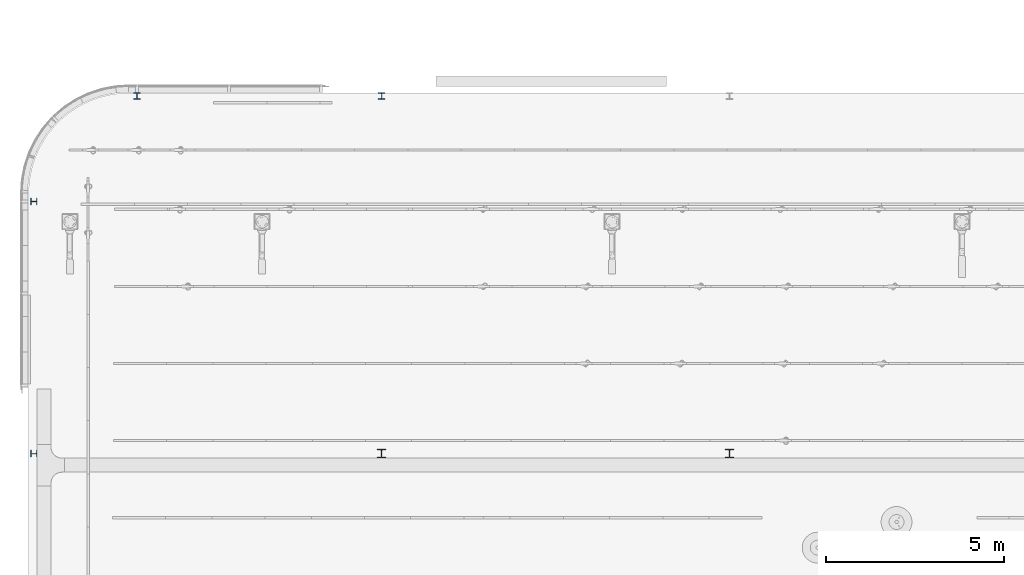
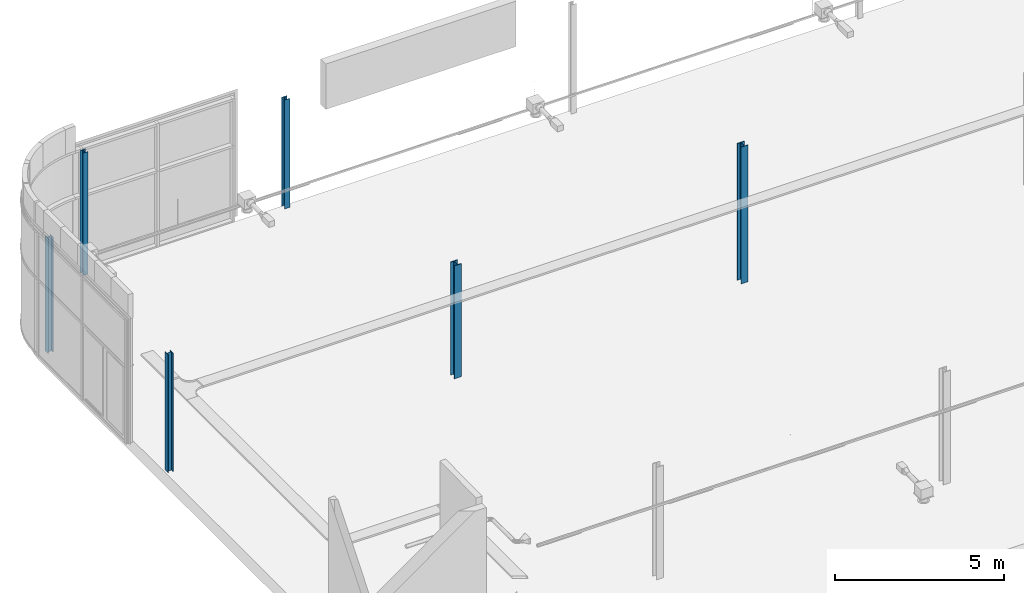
# One storey, part 2 of 290: 6 columns.
"""IFC2X3 building model written with IfcOpenShell, lengths in metres."""

from ifc_helpers import new_model, entity, si_unit, converted_unit, derived_unit, direction, frame, frame_2d, origin, place, context, subcontext, project, spatial, polyline, circle_curve, parameter, trimmed, segment, composite_curve, i_section, outline, extrude, clip, halfspace, source, transform, mapped, material, type_object, type_shapes, element, save


model = new_model("IFC2X3")

# Units and contexts
model_context = context("Model", 3, precision=1e-05, world=origin(), true_north=direction((6.12303176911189e-17, 1.0)))
body_context = subcontext(model_context, "Body", "Model", "MODEL_VIEW")
ifc_project = project(units=[si_unit("LENGTHUNIT", "METRE"), si_unit("AREAUNIT", "SQUARE_METRE"), si_unit("VOLUMEUNIT", "CUBIC_METRE"), converted_unit("PLANEANGLEUNIT", "DEGREE", entity("IfcRatioMeasure", 0.0174532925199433), si_unit("PLANEANGLEUNIT", "RADIAN"), dimensions=[0, 0, 0, 0, 0, 0, 0]), si_unit("MASSUNIT", "GRAM", prefix="KILO"), derived_unit("MASSDENSITYUNIT", [(si_unit("MASSUNIT", "GRAM", prefix="KILO"), 1), (si_unit("LENGTHUNIT", "METRE"), -3)]), derived_unit("MOMENTOFINERTIAUNIT", [(si_unit("LENGTHUNIT", "METRE"), 4)]), si_unit("TIMEUNIT", "SECOND"), si_unit("FREQUENCYUNIT", "HERTZ"), si_unit("THERMODYNAMICTEMPERATUREUNIT", "DEGREE_CELSIUS"), derived_unit("THERMALTRANSMITTANCEUNIT", [(si_unit("MASSUNIT", "GRAM", prefix="KILO"), 1), (si_unit("THERMODYNAMICTEMPERATUREUNIT", "KELVIN"), -1), (si_unit("TIMEUNIT", "SECOND"), -3)]), derived_unit("VOLUMETRICFLOWRATEUNIT", [(si_unit("LENGTHUNIT", "METRE"), 3), (si_unit("TIMEUNIT", "SECOND"), -1)]), si_unit("ELECTRICCURRENTUNIT", "AMPERE"), si_unit("ELECTRICVOLTAGEUNIT", "VOLT"), si_unit("POWERUNIT", "WATT"), si_unit("FORCEUNIT", "NEWTON", prefix="KILO"), si_unit("ILLUMINANCEUNIT", "LUX"), si_unit("LUMINOUSFLUXUNIT", "LUMEN"), si_unit("LUMINOUSINTENSITYUNIT", "CANDELA"), derived_unit("USERDEFINED", [(si_unit("MASSUNIT", "GRAM", prefix="KILO"), -1), (si_unit("LENGTHUNIT", "METRE"), -2), (si_unit("TIMEUNIT", "SECOND"), 3), (si_unit("LUMINOUSFLUXUNIT", "LUMEN"), 1)]), derived_unit("LINEARVELOCITYUNIT", [(si_unit("LENGTHUNIT", "METRE"), 1), (si_unit("TIMEUNIT", "SECOND"), -1)]), si_unit("PRESSUREUNIT", "PASCAL"), derived_unit("USERDEFINED", [(si_unit("LENGTHUNIT", "METRE"), -2), (si_unit("MASSUNIT", "GRAM", prefix="KILO"), 1), (si_unit("TIMEUNIT", "SECOND"), -2)]), derived_unit("LINEARFORCEUNIT", [(si_unit("MASSUNIT", "GRAM", prefix="KILO"), 1), (si_unit("LENGTHUNIT", "METRE"), 1), (si_unit("TIMEUNIT", "SECOND"), -2), (si_unit("LENGTHUNIT", "METRE"), -1)]), derived_unit("PLANARFORCEUNIT", [(si_unit("MASSUNIT", "GRAM", prefix="KILO"), 1), (si_unit("LENGTHUNIT", "METRE"), 1), (si_unit("TIMEUNIT", "SECOND"), -2), (si_unit("LENGTHUNIT", "METRE"), -2)])], contexts=[model_context])

# Site, building, storey
site_placement = place(None, origin())
site = spatial("IfcSite", under=ifc_project, at=site_placement, Name="Default", CompositionType="ELEMENT")
building_placement = place(site_placement, origin())
building = spatial("IfcBuilding", under=site, at=building_placement, CompositionType="ELEMENT")
storey_placement = place(building_placement, frame((0.0, 0.0, 4.0)))
storey = spatial("IfcBuildingStorey", under=building, at=storey_placement, Name="01_OG", CompositionType="ELEMENT", Elevation=4.0)

# Columns
ifc_material = material(Name="Metall - Baustahl S235")
column_type_1 = type_object("IfcColumnType", Name="HEB Stütze:HEB 240", PredefinedType="COLUMN", material=ifc_material)
shared_shape_1 = source(origin(), body_context, "Body", "Clipping", [
    clip(extrude(outline(composite_curve([segment(polyline([(0.103000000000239, -0.119999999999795), (0.120000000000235, -0.119999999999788)]), True, "CONTINUOUS"), segment(polyline([(0.120000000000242, -0.11999999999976), (0.119999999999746, 0.120000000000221)]), True, "CONTINUOUS"), segment(polyline([(0.119999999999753, 0.120000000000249), (0.10299999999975, 0.120000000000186)]), True, "CONTINUOUS"), segment(polyline([(0.10299999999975, 0.120000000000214), (0.10299999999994, 0.0268000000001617)]), True, "CONTINUOUS"), segment(trimmed(circle_curve(frame_2d((0.0811999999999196, 0.0268000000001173), x_axis=(1.0, 0.0)), 0.0218000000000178), [parameter(270.000000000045)], [parameter(0.0)], True, "PARAMETER"), False, "CONTINUOUS"), segment(polyline([(0.0811999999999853, 0.00500000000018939), (-0.0812000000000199, 0.00499999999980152)]), True, "CONTINUOUS"), segment(trimmed(circle_curve(frame_2d((-0.081200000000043, 0.0267999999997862), x_axis=(0.0, -1.0)), 0.0218000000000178), [parameter(270.000000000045)], [parameter(0.0)], True, "PARAMETER"), False, "CONTINUOUS"), segment(polyline([(-0.103000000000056, 0.0267999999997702), (-0.103000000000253, 0.119999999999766)]), True, "CONTINUOUS"), segment(polyline([(-0.103000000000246, 0.119999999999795), (-0.120000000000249, 0.119999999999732)]), True, "CONTINUOUS"), segment(polyline([(-0.120000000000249, 0.11999999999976), (-0.11999999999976, -0.120000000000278)]), True, "CONTINUOUS"), segment(polyline([(-0.11999999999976, -0.120000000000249), (-0.102999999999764, -0.120000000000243)]), True, "CONTINUOUS"), segment(polyline([(-0.102999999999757, -0.120000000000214), (-0.102999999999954, -0.026800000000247)]), True, "CONTINUOUS"), segment(trimmed(circle_curve(frame_2d((-0.0811999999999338, -0.0268000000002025), x_axis=(-1.0, 0.0)), 0.0218000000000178), [parameter(270.000000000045)], [parameter(0.0)], True, "PARAMETER"), False, "CONTINUOUS"), segment(polyline([(-0.0811999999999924, -0.00500000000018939), (0.0812000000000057, -0.00499999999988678)]), True, "CONTINUOUS"), segment(trimmed(circle_curve(frame_2d((0.0812000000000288, -0.0267999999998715), x_axis=(0.0, 1.0)), 0.0218000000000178), [parameter(270.000000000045)], [parameter(0.0)], True, "PARAMETER"), False, "CONTINUOUS"), segment(polyline([(0.103000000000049, -0.0267999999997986), (0.103000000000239, -0.119999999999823)]), True, "CONTINUOUS")], self_intersect=False)), frame((-246.935111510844, 35.408088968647, 4.48), z_axis=(0.0, 0.0, 1.0), x_axis=(0.0, -1.0, 0.0)), (0.0, 0.0, 1.0), 4.93854560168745), halfspace(frame((-246.935111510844, 35.408088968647, 9.41674428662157), z_axis=(0.0, 0.0150092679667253, 0.999887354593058), x_axis=(1.0, 0.0, 0.0)), False)),
])
type_shapes(column_type_1, [shared_shape_1])
column_1_placement = place(storey_placement, frame((0.0, 0.0, -4.0)))
element("IfcColumn", 1, at=column_1_placement, inside=storey, type_object=column_type_1, material=ifc_material, Name="HEB Stütze:HEB 240", ObjectType="HEB Stütze:HEB 240", context=body_context, shape_type="MappedRepresentation", body=[
    mapped(shared_shape_1, transform((0.0, 0.0, 0.0), scale=1.0)),
])
column_type_2 = type_object("IfcColumnType", Name="HEB Stütze:HEB 240", PredefinedType="COLUMN", material=ifc_material)
shared_shape_2 = source(origin(), body_context, "Body", "SweptSolid", [
    extrude(outline(composite_curve([segment(polyline([(0.103000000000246, -0.119999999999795), (0.120000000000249, -0.119999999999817)]), True, "CONTINUOUS"), segment(polyline([(0.120000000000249, -0.11999999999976), (0.11999999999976, 0.120000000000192)]), True, "CONTINUOUS"), segment(polyline([(0.11999999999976, 0.120000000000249), (0.102999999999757, 0.120000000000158)]), True, "CONTINUOUS"), segment(polyline([(0.102999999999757, 0.120000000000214), (0.102999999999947, 0.0268000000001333)]), True, "CONTINUOUS"), segment(trimmed(circle_curve(frame_2d((0.0811999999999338, 0.0268000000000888), x_axis=(1.0, 0.0)), 0.0218000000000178), [parameter(270.000000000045)], [parameter(0.0)], True, "PARAMETER"), False, "CONTINUOUS"), segment(polyline([(0.0811999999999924, 0.00500000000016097), (-0.0812000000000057, 0.0049999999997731)]), True, "CONTINUOUS"), segment(trimmed(circle_curve(frame_2d((-0.0812000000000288, 0.0267999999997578), x_axis=(0.0, -1.0)), 0.0218000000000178), [parameter(270.000000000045)], [parameter(0.0)], True, "PARAMETER"), False, "CONTINUOUS"), segment(polyline([(-0.103000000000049, 0.0267999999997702), (-0.103000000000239, 0.119999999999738)]), True, "CONTINUOUS"), segment(polyline([(-0.103000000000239, 0.119999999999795), (-0.120000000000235, 0.119999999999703)]), True, "CONTINUOUS"), segment(polyline([(-0.120000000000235, 0.11999999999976), (-0.119999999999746, -0.120000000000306)]), True, "CONTINUOUS"), segment(polyline([(-0.119999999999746, -0.120000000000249), (-0.10299999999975, -0.120000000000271)]), True, "CONTINUOUS"), segment(polyline([(-0.10299999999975, -0.120000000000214), (-0.10299999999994, -0.026800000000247)]), True, "CONTINUOUS"), segment(trimmed(circle_curve(frame_2d((-0.0811999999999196, -0.0268000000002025), x_axis=(-1.0, 0.0)), 0.0218000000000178), [parameter(270.000000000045)], [parameter(0.0)], True, "PARAMETER"), False, "CONTINUOUS"), segment(polyline([(-0.0811999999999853, -0.00500000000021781), (0.0812000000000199, -0.00499999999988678)]), True, "CONTINUOUS"), segment(trimmed(circle_curve(frame_2d((0.081200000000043, -0.0267999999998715), x_axis=(0.0, 1.0)), 0.0218000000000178), [parameter(270.000000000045)], [parameter(0.0)], True, "PARAMETER"), False, "CONTINUOUS"), segment(polyline([(0.103000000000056, -0.0267999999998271), (0.103000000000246, -0.119999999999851)]), True, "CONTINUOUS")], self_intersect=False)), frame((-256.722611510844, 35.4080889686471, 4.48), z_axis=(0.0, 0.0, 1.0), x_axis=(0.0, -1.0, 0.0)), (0.0, 0.0, 1.0), 4.08254999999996),
])
type_shapes(column_type_2, [shared_shape_2])
column_2_placement = place(storey_placement, frame((0.0, 0.0, -4.0)))
element("IfcColumn", 2, at=column_2_placement, inside=storey, type_object=column_type_2, material=ifc_material, Name="HEB Stütze:HEB 240", ObjectType="HEB Stütze:HEB 240", context=body_context, shape_type="MappedRepresentation", body=[
    mapped(shared_shape_2, transform((0.0, 0.0, 0.0), scale=1.0)),
])
column_type_3 = type_object("IfcColumnType", Name="HEA Stütze:HEA 180", PredefinedType="COLUMN", material=ifc_material)
shared_shape_3 = source(origin(), body_context, "Body", "SweptSolid", [
    extrude(outline(composite_curve([segment(polyline([(0.0760000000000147, -0.0900000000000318), (0.0855000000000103, -0.0900000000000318)]), True, "CONTINUOUS"), segment(polyline([(0.0855000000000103, -0.0900000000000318), (0.0855000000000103, 0.089999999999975)]), True, "CONTINUOUS"), segment(polyline([(0.0855000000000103, 0.089999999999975), (0.0760000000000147, 0.089999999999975)]), True, "CONTINUOUS"), segment(polyline([(0.0760000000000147, 0.089999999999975), (0.0760000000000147, 0.0180000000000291)]), True, "CONTINUOUS"), segment(trimmed(circle_curve(frame_2d((0.0609999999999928, 0.0179999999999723), x_axis=(1.0, 0.0)), 0.0150000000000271), [parameter(270.000000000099)], [parameter(0.0)], True, "PARAMETER"), False, "CONTINUOUS"), segment(polyline([(0.0610000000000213, 0.0029999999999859), (-0.0609999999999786, 0.0029999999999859)]), True, "CONTINUOUS"), segment(trimmed(circle_curve(frame_2d((-0.0609999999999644, 0.0179999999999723), x_axis=(0.0, -1.0)), 0.0150000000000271), [parameter(270.000000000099)], [parameter(0.0)], True, "PARAMETER"), False, "CONTINUOUS"), segment(polyline([(-0.0759999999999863, 0.0179999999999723), (-0.0759999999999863, 0.089999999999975)]), True, "CONTINUOUS"), segment(polyline([(-0.0759999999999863, 0.089999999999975), (-0.0854999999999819, 0.089999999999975)]), True, "CONTINUOUS"), segment(polyline([(-0.0854999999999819, 0.089999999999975), (-0.0854999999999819, -0.0900000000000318)]), True, "CONTINUOUS"), segment(polyline([(-0.0854999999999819, -0.0900000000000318), (-0.0759999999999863, -0.0900000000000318)]), True, "CONTINUOUS"), segment(polyline([(-0.0759999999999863, -0.0900000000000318), (-0.0759999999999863, -0.0180000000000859)]), True, "CONTINUOUS"), segment(trimmed(circle_curve(frame_2d((-0.0609999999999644, -0.0180000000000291), x_axis=(-1.0, 0.0)), 0.0150000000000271), [parameter(270.000000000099)], [parameter(0.0)], True, "PARAMETER"), False, "CONTINUOUS"), segment(polyline([(-0.0609999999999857, -0.00300000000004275), (0.061000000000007, -0.00300000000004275)]), True, "CONTINUOUS"), segment(trimmed(circle_curve(frame_2d((0.0609999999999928, -0.0180000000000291), x_axis=(0.0, 1.0)), 0.0150000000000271), [parameter(270.000000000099)], [parameter(0.0)], True, "PARAMETER"), False, "CONTINUOUS"), segment(polyline([(0.0760000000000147, -0.0180000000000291), (0.0760000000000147, -0.0900000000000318)]), True, "CONTINUOUS")], self_intersect=False)), frame((-256.722611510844, 45.4725889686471, 4.48), z_axis=(0.0, 0.0, 1.0), x_axis=(0.0, -1.0, 0.0)), (0.0, 0.0, 1.0), 3.9315825),
])
type_shapes(column_type_3, [shared_shape_3])
column_3_placement = place(storey_placement, frame((0.0, 0.0, -4.0)))
element("IfcColumn", 3, at=column_3_placement, inside=storey, type_object=column_type_3, material=ifc_material, Name="HEA Stütze:HEA 180", ObjectType="HEA Stütze:HEA 180", context=body_context, shape_type="MappedRepresentation", body=[
    mapped(shared_shape_3, transform((0.0, 0.0, 0.0), scale=1.0)),
])
column_type_4 = type_object("IfcColumnType", Name="HEA Stütze:HEA 180", PredefinedType="COLUMN", material=ifc_material)
shared_shape_4 = source(origin(), body_context, "Body", "SweptSolid", [
    extrude(outline(composite_curve([segment(polyline([(0.0760000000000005, -0.089999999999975), (0.0855000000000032, -0.089999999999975)]), True, "CONTINUOUS"), segment(polyline([(0.0855000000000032, -0.089999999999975), (0.0855000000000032, 0.089999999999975)]), True, "CONTINUOUS"), segment(polyline([(0.0855000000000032, 0.0900000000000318), (0.0760000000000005, 0.0900000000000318)]), True, "CONTINUOUS"), segment(polyline([(0.0760000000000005, 0.0900000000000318), (0.0760000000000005, 0.0180000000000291)]), True, "CONTINUOUS"), segment(trimmed(circle_curve(frame_2d((0.0609999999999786, 0.0180000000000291), x_axis=(1.0, 0.0)), 0.0150000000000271), [parameter(270.000000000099)], [parameter(0.0)], True, "PARAMETER"), False, "CONTINUOUS"), segment(polyline([(0.061000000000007, 0.00300000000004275), (-0.0609999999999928, 0.00300000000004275)]), True, "CONTINUOUS"), segment(trimmed(circle_curve(frame_2d((-0.0609999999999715, 0.0180000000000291), x_axis=(0.0, -1.0)), 0.0150000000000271), [parameter(270.000000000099)], [parameter(0.0)], True, "PARAMETER"), False, "CONTINUOUS"), segment(polyline([(-0.0759999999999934, 0.0180000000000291), (-0.0759999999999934, 0.089999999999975)]), True, "CONTINUOUS"), segment(polyline([(-0.0759999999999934, 0.0900000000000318), (-0.0854999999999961, 0.0900000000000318)]), True, "CONTINUOUS"), segment(polyline([(-0.0854999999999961, 0.0900000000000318), (-0.0854999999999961, -0.089999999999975)]), True, "CONTINUOUS"), segment(polyline([(-0.0854999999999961, -0.089999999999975), (-0.0759999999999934, -0.089999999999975)]), True, "CONTINUOUS"), segment(polyline([(-0.0759999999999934, -0.089999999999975), (-0.0759999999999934, -0.0180000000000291)]), True, "CONTINUOUS"), segment(trimmed(circle_curve(frame_2d((-0.0609999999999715, -0.0179999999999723), x_axis=(-1.0, 0.0)), 0.0150000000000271), [parameter(270.000000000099)], [parameter(0.0)], True, "PARAMETER"), False, "CONTINUOUS"), segment(polyline([(-0.0609999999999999, -0.0029999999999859), (0.0609999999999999, -0.0029999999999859)]), True, "CONTINUOUS"), segment(trimmed(circle_curve(frame_2d((0.0609999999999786, -0.0179999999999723), x_axis=(0.0, 1.0)), 0.0150000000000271), [parameter(270.000000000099)], [parameter(0.0)], True, "PARAMETER"), False, "CONTINUOUS"), segment(polyline([(0.0760000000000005, -0.0179999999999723), (0.0760000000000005, -0.089999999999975)]), True, "CONTINUOUS")], self_intersect=False)), frame((-263.60611364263, 45.4725889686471, 4.48), z_axis=(0.0, 0.0, 1.0), x_axis=(0.0, -1.0, 0.0)), (0.0, 0.0, 1.0), 4.42032419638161),
])
type_shapes(column_type_4, [shared_shape_4])
column_4_placement = place(storey_placement, frame((0.0, 0.0, -4.0)))
element("IfcColumn", 4, at=column_4_placement, inside=storey, type_object=column_type_4, material=ifc_material, Name="HEA Stütze:HEA 180", ObjectType="HEA Stütze:HEA 180", context=body_context, shape_type="MappedRepresentation", body=[
    mapped(shared_shape_4, transform((0.0, 0.0, 0.0), scale=1.0)),
])
column_type_5 = type_object("IfcColumnType", Name="HEA Stütze:HEA 180", PredefinedType="COLUMN", material=ifc_material)
shared_shape_5 = source(origin(), body_context, "Body", "SweptSolid", [
    extrude(i_section(OverallWidth=0.180000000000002, OverallDepth=0.171000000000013, WebThickness=0.0060000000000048, FlangeThickness=0.00949999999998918, FilletRadius=0.0150000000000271, at=frame_2d((8.66667848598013e-15, 3.46528361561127e-14), x_axis=(1.0, 0.0))), frame((-266.510111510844, 42.5040911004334, 4.48), z_axis=(0.0, 0.0, 1.0), x_axis=(0.0, -1.0, 0.0)), (0.0, 0.0, 1.0), 4.16472621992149),
])
type_shapes(column_type_5, [shared_shape_5])
column_5_placement = place(storey_placement, frame((0.0, 0.0, -4.0)))
element("IfcColumn", 5, at=column_5_placement, inside=storey, type_object=column_type_5, material=ifc_material, Name="HEA Stütze:HEA 180", ObjectType="HEA Stütze:HEA 180", context=body_context, shape_type="MappedRepresentation", body=[
    mapped(shared_shape_5, transform((0.0, 0.0, 0.0), scale=1.0)),
])
column_type_6 = type_object("IfcColumnType", Name="HEA Stütze:HEA 180", PredefinedType="COLUMN", material=ifc_material)
shared_shape_6 = source(origin(), body_context, "Body", "SweptSolid", [
    extrude(i_section(OverallWidth=0.179999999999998, OverallDepth=0.171000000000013, WebThickness=0.00599999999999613, FlangeThickness=0.00949999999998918, FilletRadius=0.0150000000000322, at=frame_2d((0.0, 3.46528361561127e-14), x_axis=(1.0, 0.0))), frame((-266.510111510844, 35.4080889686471, 4.48), z_axis=(0.0, 0.0, 1.0), x_axis=(0.0, -1.0, 0.0)), (0.0, 0.0, 1.0), 4.27116625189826),
])
type_shapes(column_type_6, [shared_shape_6])
column_6_placement = place(storey_placement, frame((0.0, 0.0, -4.0)))
element("IfcColumn", 6, at=column_6_placement, inside=storey, type_object=column_type_6, material=ifc_material, Name="HEA Stütze:HEA 180", ObjectType="HEA Stütze:HEA 180", context=body_context, shape_type="MappedRepresentation", body=[
    mapped(shared_shape_6, transform((0.0, 0.0, 0.0), scale=1.0)),
])

save(model, "model.ifc")
